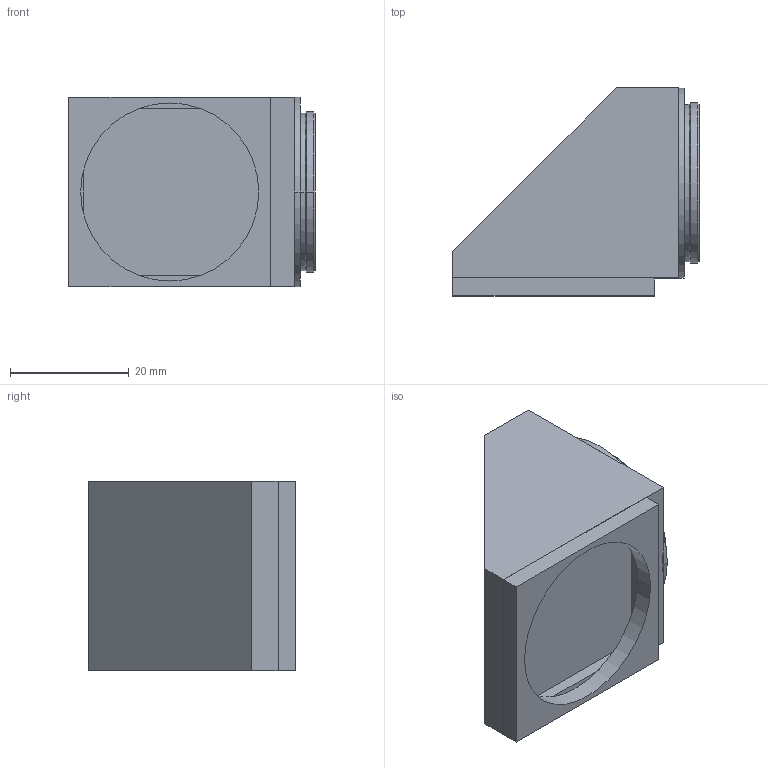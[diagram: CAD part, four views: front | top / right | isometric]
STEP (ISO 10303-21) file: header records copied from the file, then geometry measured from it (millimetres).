
FILE_DESCRIPTION (( 'STEP AP203' ), '1' );
FILE_NAME ('VS-PZ-C270F.STEP', '2014-10-06T02:54:59', ( 'miura_vst' ), ( '' ), 'SwSTEP 2.0', 'SolidWorks 2014', '' );
FILE_SCHEMA (( 'CONFIG_CONTROL_DESIGN' ));
Length unit declared in the file: millimetre
Products named in the file (1): VS-PZ-C270F
Bounding box: 41.5 x 35 x 32 mm (x, y, z)
Volume: 27277.3 mm3; surface area: 7827.7 mm2
Topology: 2 solids, 2 shells, 42 faces, 93 edges, 58 vertices
Faces by surface type: plane 24, cylinder 14, cone 4
Entity records: 1232 total; most frequent: DIRECTION 211, CARTESIAN_POINT 194, ORIENTED_EDGE 186, EDGE_CURVE 93, AXIS2_PLACEMENT_3D 75, VECTOR 61, LINE 61, VERTEX_POINT 58
